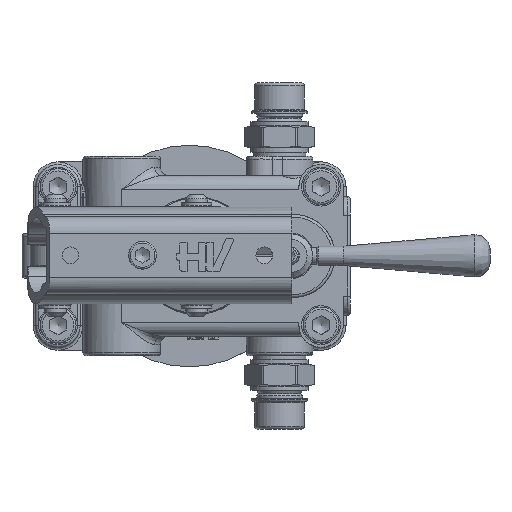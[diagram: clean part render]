
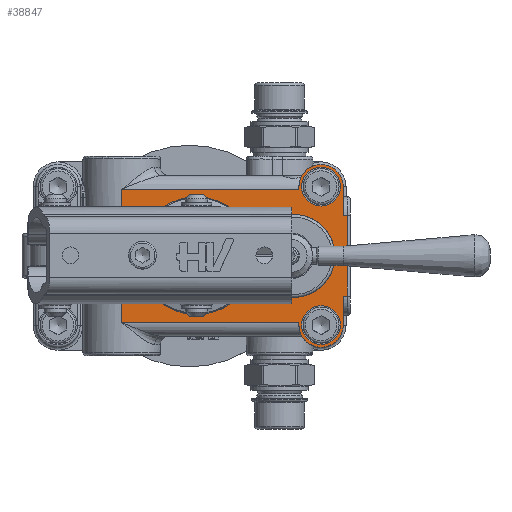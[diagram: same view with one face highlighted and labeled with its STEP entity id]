
A CAD part, top view. The second image highlights one B-rep face of the part: STEP entity #38847.
In plain terms, the highlighted planar face has unit normal (0, 0, 1).
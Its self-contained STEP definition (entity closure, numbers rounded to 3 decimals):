
#17496=CARTESIAN_POINT('',(77.992,33.397,43.));
#17497=VERTEX_POINT('',#17496);
#17498=CARTESIAN_POINT('',(59.0,34.,43.));
#17499=DIRECTION('',(0.,0.,-1.0));
#17500=DIRECTION('',(-0.999,0.032,0.));
#17501=AXIS2_PLACEMENT_3D('',#17498,#17499,#17500);
#17502=CIRCLE('',#17501,19.002);
#17503=EDGE_CURVE('',#17497,#17497,#17502,.T.);
#37198=CARTESIAN_POINT('',(96.,58.,43.));
#37199=VERTEX_POINT('',#37198);
#37207=CARTESIAN_POINT('',(96.,59.,43.));
#37208=VERTEX_POINT('',#37207);
#37209=CARTESIAN_POINT('',(96.,58.,43.));
#37210=DIRECTION('',(0.0,1.0,0.0));
#37211=VECTOR('',#37210,1.);
#37212=LINE('',#37209,#37211);
#37213=EDGE_CURVE('',#37199,#37208,#37212,.T.);
#37229=CARTESIAN_POINT('',(96.0,10.0,43.));
#37230=VERTEX_POINT('',#37229);
#37240=CARTESIAN_POINT('',(96.0,9.,43.));
#37241=VERTEX_POINT('',#37240);
#37248=CARTESIAN_POINT('',(96.,9.,43.));
#37249=DIRECTION('',(0.0,1.0,0.0));
#37250=VECTOR('',#37249,1.);
#37251=LINE('',#37248,#37250);
#37252=EDGE_CURVE('',#37241,#37230,#37251,.T.);
#37411=CARTESIAN_POINT('',(32.,44.122,43.));
#37412=VERTEX_POINT('',#37411);
#37461=CARTESIAN_POINT('',(33.732,41.0,43.));
#37462=VERTEX_POINT('',#37461);
#37470=CARTESIAN_POINT('',(33.732,41.0,43.));
#37471=CARTESIAN_POINT('',(33.732,41.528,43.));
#37472=CARTESIAN_POINT('',(33.438,42.767,43.));
#37473=CARTESIAN_POINT('',(32.582,43.719,43.));
#37474=CARTESIAN_POINT('',(32.,44.122,43.));
#37475=B_SPLINE_CURVE_WITH_KNOTS('',3,(#37470,#37471,#37472,#37473,#37474),.UNSPECIFIED.,.F.,.U.,(4,1,4),(2.696,2.855,3.066),.UNSPECIFIED.);
#37476=EDGE_CURVE('',#37462,#37412,#37475,.T.);
#37488=CARTESIAN_POINT('',(33.732,27.,43.));
#37489=VERTEX_POINT('',#37488);
#37497=CARTESIAN_POINT('',(33.732,27.,43.));
#37498=DIRECTION('',(0.0,1.0,0.0));
#37499=VECTOR('',#37498,14.);
#37500=LINE('',#37497,#37499);
#37501=EDGE_CURVE('',#37489,#37462,#37500,.T.);
#37534=CARTESIAN_POINT('',(32.,23.878,43.));
#37535=VERTEX_POINT('',#37534);
#37543=CARTESIAN_POINT('',(32.,23.878,43.));
#37544=CARTESIAN_POINT('',(32.433,24.178,43.));
#37545=CARTESIAN_POINT('',(33.336,25.067,43.));
#37546=CARTESIAN_POINT('',(33.732,26.29,43.0));
#37547=CARTESIAN_POINT('',(33.732,27.,43.));
#37548=B_SPLINE_CURVE_WITH_KNOTS('',3,(#37543,#37544,#37545,#37546,#37547),.UNSPECIFIED.,.F.,.U.,(4,1,4),(2.696,2.854,3.065),.UNSPECIFIED.);
#37549=EDGE_CURVE('',#37535,#37489,#37548,.T.);
#38253=CARTESIAN_POINT('',(112.0,59.,43.));
#38254=VERTEX_POINT('',#38253);
#38261=CARTESIAN_POINT('',(112.,48.5,43.));
#38262=VERTEX_POINT('',#38261);
#38263=CARTESIAN_POINT('',(112.0,59.,43.));
#38264=DIRECTION('',(0.0,-1.0,0.0));
#38265=VECTOR('',#38264,10.5);
#38266=LINE('',#38263,#38265);
#38267=EDGE_CURVE('',#38254,#38262,#38266,.T.);
#38382=CARTESIAN_POINT('',(112.0,19.5,43.));
#38383=VERTEX_POINT('',#38382);
#38391=CARTESIAN_POINT('',(112.,9.,43.));
#38392=VERTEX_POINT('',#38391);
#38393=CARTESIAN_POINT('',(112.,19.5,43.));
#38394=DIRECTION('',(0.0,-1.0,0.0));
#38395=VECTOR('',#38394,10.5);
#38396=LINE('',#38393,#38395);
#38397=EDGE_CURVE('',#38383,#38392,#38396,.T.);
#38712=CARTESIAN_POINT('',(113.5,48.5,43.));
#38713=VERTEX_POINT('',#38712);
#38723=CARTESIAN_POINT('',(112.,48.5,43.));
#38724=DIRECTION('',(1.0,0.0,0.0));
#38725=VECTOR('',#38724,1.5);
#38726=LINE('',#38723,#38725);
#38727=EDGE_CURVE('',#38262,#38713,#38726,.T.);
#38732=CARTESIAN_POINT('',(104.,34.,43.));
#38733=DIRECTION('',(0.0,0.0,1.0));
#38734=DIRECTION('',(1.0,0.0,0.0));
#38735=AXIS2_PLACEMENT_3D('',#38732,#38733,#38734);
#38736=PLANE('',#38735);
#38737=CARTESIAN_POINT('',(113.5,19.5,43.));
#38738=VERTEX_POINT('',#38737);
#38739=CARTESIAN_POINT('',(113.5,48.5,43.));
#38740=DIRECTION('',(0.0,-1.0,0.0));
#38741=VECTOR('',#38740,29.);
#38742=LINE('',#38739,#38741);
#38743=EDGE_CURVE('',#38713,#38738,#38742,.T.);
#38744=ORIENTED_EDGE('',*,*,#38743,.F.);
#38745=ORIENTED_EDGE('',*,*,#38727,.F.);
#38746=ORIENTED_EDGE('',*,*,#38267,.F.);
#38747=CARTESIAN_POINT('',(104.,59.,43.));
#38748=DIRECTION('',(0.0,0.0,-1.0));
#38749=DIRECTION('',(1.0,0.0,0.0));
#38750=AXIS2_PLACEMENT_3D('',#38747,#38748,#38749);
#38751=CIRCLE('',#38750,8.0);
#38752=EDGE_CURVE('',#37208,#38254,#38751,.T.);
#38753=ORIENTED_EDGE('',*,*,#38752,.F.);
#38754=ORIENTED_EDGE('',*,*,#37213,.F.);
#38755=CARTESIAN_POINT('',(32.,58.,43.));
#38756=VERTEX_POINT('',#38755);
#38757=CARTESIAN_POINT('',(96.,58.,43.));
#38758=DIRECTION('',(-1.0,0.0,0.0));
#38759=VECTOR('',#38758,64.);
#38760=LINE('',#38757,#38759);
#38761=EDGE_CURVE('',#37199,#38756,#38760,.T.);
#38762=ORIENTED_EDGE('',*,*,#38761,.T.);
#38763=CARTESIAN_POINT('',(32.0,44.122,43.0));
#38764=DIRECTION('',(0.0,1.0,0.0));
#38765=VECTOR('',#38764,13.878);
#38766=LINE('',#38763,#38765);
#38767=EDGE_CURVE('',#37412,#38756,#38766,.T.);
#38768=ORIENTED_EDGE('',*,*,#38767,.F.);
#38769=ORIENTED_EDGE('',*,*,#37476,.F.);
#38770=ORIENTED_EDGE('',*,*,#37501,.F.);
#38771=ORIENTED_EDGE('',*,*,#37549,.F.);
#38772=CARTESIAN_POINT('',(32.,10.0,43.));
#38773=VERTEX_POINT('',#38772);
#38774=CARTESIAN_POINT('',(32.0,10.,43.0));
#38775=DIRECTION('',(0.0,1.0,0.0));
#38776=VECTOR('',#38775,13.878);
#38777=LINE('',#38774,#38776);
#38778=EDGE_CURVE('',#38773,#37535,#38777,.T.);
#38779=ORIENTED_EDGE('',*,*,#38778,.F.);
#38780=CARTESIAN_POINT('',(96.0,10.0,43.));
#38781=DIRECTION('',(-1.0,0.0,0.0));
#38782=VECTOR('',#38781,64.);
#38783=LINE('',#38780,#38782);
#38784=EDGE_CURVE('',#37230,#38773,#38783,.T.);
#38785=ORIENTED_EDGE('',*,*,#38784,.F.);
#38786=ORIENTED_EDGE('',*,*,#37252,.F.);
#38787=CARTESIAN_POINT('',(104.0,9.,43.));
#38788=DIRECTION('',(0.0,0.0,-1.0));
#38789=DIRECTION('',(-1.0,0.0,0.0));
#38790=AXIS2_PLACEMENT_3D('',#38787,#38788,#38789);
#38791=CIRCLE('',#38790,8.0);
#38792=EDGE_CURVE('',#38392,#37241,#38791,.T.);
#38793=ORIENTED_EDGE('',*,*,#38792,.F.);
#38794=ORIENTED_EDGE('',*,*,#38397,.F.);
#38795=CARTESIAN_POINT('',(112.0,19.5,43.));
#38796=DIRECTION('',(1.0,0.0,0.0));
#38797=VECTOR('',#38796,1.5);
#38798=LINE('',#38795,#38797);
#38799=EDGE_CURVE('',#38383,#38738,#38798,.T.);
#38800=ORIENTED_EDGE('',*,*,#38799,.T.);
#38801=EDGE_LOOP('',(#38744,#38745,#38746,#38753,#38754,#38762,#38768,#38769,#38770,#38771,#38779,#38785,#38786,#38793,#38794,#38800));
#38802=FACE_OUTER_BOUND('',#38801,.T.);
#38803=ORIENTED_EDGE('',*,*,#17503,.T.);
#38804=EDGE_LOOP('',(#38803));
#38805=FACE_BOUND('',#38804,.T.);
#38806=CARTESIAN_POINT('',(111.,59.,43.));
#38807=VERTEX_POINT('',#38806);
#38808=CARTESIAN_POINT('',(104.,59.,43.));
#38809=DIRECTION('',(0.0,0.0,-1.0));
#38810=DIRECTION('',(1.0,0.0,0.0));
#38811=AXIS2_PLACEMENT_3D('',#38808,#38809,#38810);
#38812=CIRCLE('',#38811,7.);
#38813=EDGE_CURVE('',#38807,#38807,#38812,.T.);
#38814=ORIENTED_EDGE('',*,*,#38813,.T.);
#38815=EDGE_LOOP('',(#38814));
#38816=FACE_BOUND('',#38815,.T.);
#38817=CARTESIAN_POINT('',(111.0,9.,43.));
#38818=VERTEX_POINT('',#38817);
#38819=CARTESIAN_POINT('',(104.0,9.,43.));
#38820=DIRECTION('',(0.0,0.0,-1.0));
#38821=DIRECTION('',(1.0,0.0,0.0));
#38822=AXIS2_PLACEMENT_3D('',#38819,#38820,#38821);
#38823=CIRCLE('',#38822,7.);
#38824=EDGE_CURVE('',#38818,#38818,#38823,.T.);
#38825=ORIENTED_EDGE('',*,*,#38824,.T.);
#38826=EDGE_LOOP('',(#38825));
#38827=FACE_BOUND('',#38826,.T.);
#38828=CARTESIAN_POINT('',(83.0,44.198,43.));
#38829=VERTEX_POINT('',#38828);
#38830=CARTESIAN_POINT('',(83.0,23.802,43.));
#38831=VERTEX_POINT('',#38830);
#38832=CARTESIAN_POINT('',(94.,34.0,43.));
#38833=DIRECTION('',(0.0,0.0,-1.0));
#38834=DIRECTION('',(-1.0,0.0,0.0));
#38835=AXIS2_PLACEMENT_3D('',#38832,#38833,#38834);
#38836=CIRCLE('',#38835,15.0);
#38837=EDGE_CURVE('',#38829,#38831,#38836,.T.);
#38838=ORIENTED_EDGE('',*,*,#38837,.T.);
#38839=CARTESIAN_POINT('',(83.0,23.802,43.));
#38840=DIRECTION('',(0.0,1.0,0.0));
#38841=VECTOR('',#38840,20.396);
#38842=LINE('',#38839,#38841);
#38843=EDGE_CURVE('',#38831,#38829,#38842,.T.);
#38844=ORIENTED_EDGE('',*,*,#38843,.T.);
#38845=EDGE_LOOP('',(#38838,#38844));
#38846=FACE_BOUND('',#38845,.T.);
#38847=ADVANCED_FACE('',(#38802,#38805,#38816,#38827,#38846),#38736,.T.);
